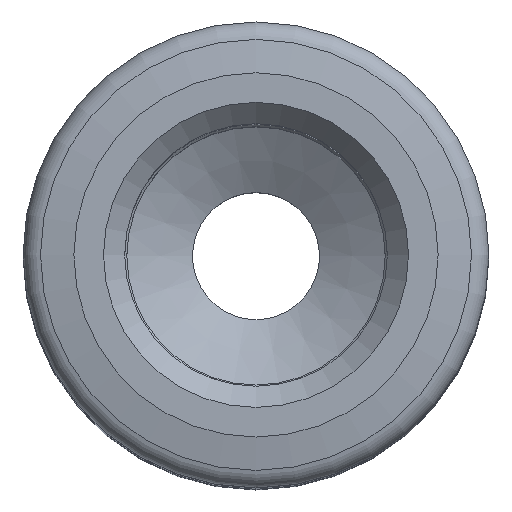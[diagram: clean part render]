
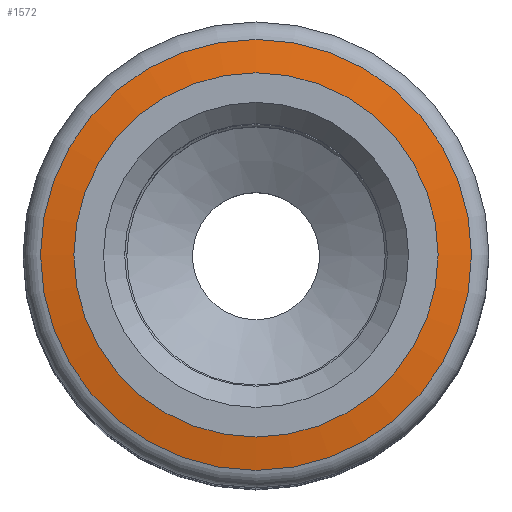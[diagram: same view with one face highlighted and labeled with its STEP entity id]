
A CAD part, top view. The second image highlights one B-rep face of the part: STEP entity #1572.
In plain terms, the highlighted conical face has half-angle 80 degrees and reference radius 5.087 mm.
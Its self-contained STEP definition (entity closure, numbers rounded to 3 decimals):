
#582=CONICAL_SURFACE('',#1498,5.087,80.);
#675=ORIENTED_EDGE('',*,*,#830,.T.);
#676=ORIENTED_EDGE('',*,*,#829,.F.);
#729=CIRCLE('',#1497,4.3);
#730=CIRCLE('',#1499,5.087);
#779=VERTEX_POINT('',#1387);
#780=VERTEX_POINT('',#1390);
#829=EDGE_CURVE('',#779,#779,#729,.T.);
#830=EDGE_CURVE('',#780,#780,#730,.T.);
#925=EDGE_LOOP('',(#675));
#926=EDGE_LOOP('',(#676));
#1025=FACE_BOUND('',#925,.T.);
#1026=FACE_BOUND('',#926,.T.);
#1225=DIRECTION('',(0.,1.,0.));
#1226=DIRECTION('',(4.3,0.,0.));
#1227=DIRECTION('',(0.,-1.,0.));
#1228=DIRECTION('',(1.,0.,0.));
#1229=DIRECTION('',(0.,1.,0.));
#1230=DIRECTION('',(5.087,0.,0.));
#1387=CARTESIAN_POINT('',(128.352,29.055,0.));
#1388=CARTESIAN_POINT('',(124.052,29.055,0.));
#1389=CARTESIAN_POINT('',(124.052,28.917,0.));
#1390=CARTESIAN_POINT('',(129.138,28.917,0.));
#1391=CARTESIAN_POINT('',(124.052,28.917,0.));
#1497=AXIS2_PLACEMENT_3D('',#1388,#1225,#1226);
#1498=AXIS2_PLACEMENT_3D('',#1389,#1227,#1228);
#1499=AXIS2_PLACEMENT_3D('',#1391,#1229,#1230);
#1572=ADVANCED_FACE('',(#1025,#1026),#582,.T.);
